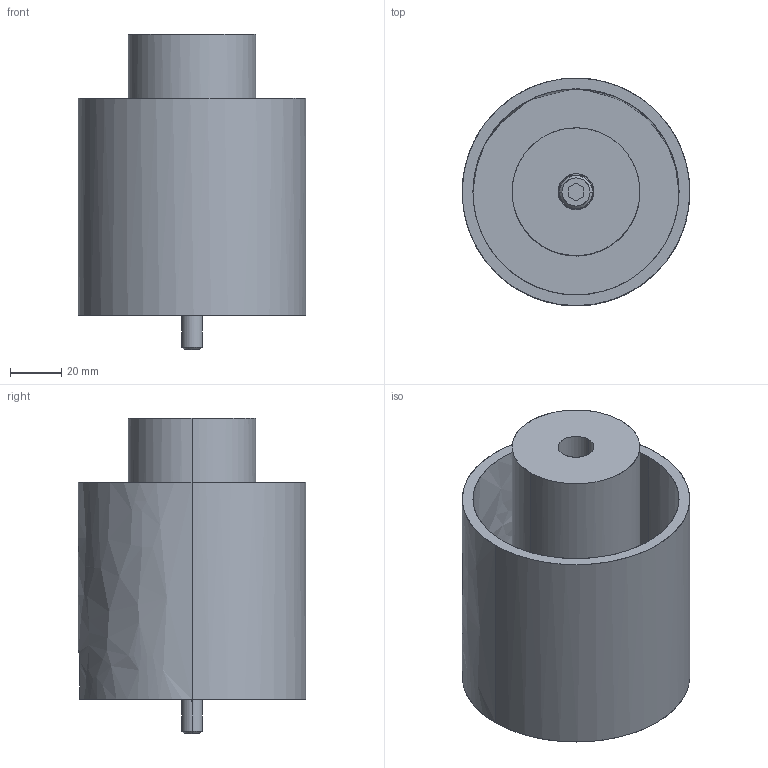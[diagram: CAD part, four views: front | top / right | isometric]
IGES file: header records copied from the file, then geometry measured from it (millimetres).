
Global section: file name: E:\UnigraphicsGraphicData\MISUMI_PRESS-PARTS\IGES\3d_phbtn50-110-85-r_07075_r00.igs; native system: NX V5.0; preprocessor: UGS NX IGES V5.0; author: MISUMI; date: 20110105.162249; units: millimetre
Bounding box: 89.1 x 89.1 x 123.4 mm (x, y, z)
Surface area: 86763.7 mm2 (no closed solid volume)
Topology: 0 solids, 0 shells, 50 faces, 396 edges, 396 vertices
Faces by surface type: bspline 50
